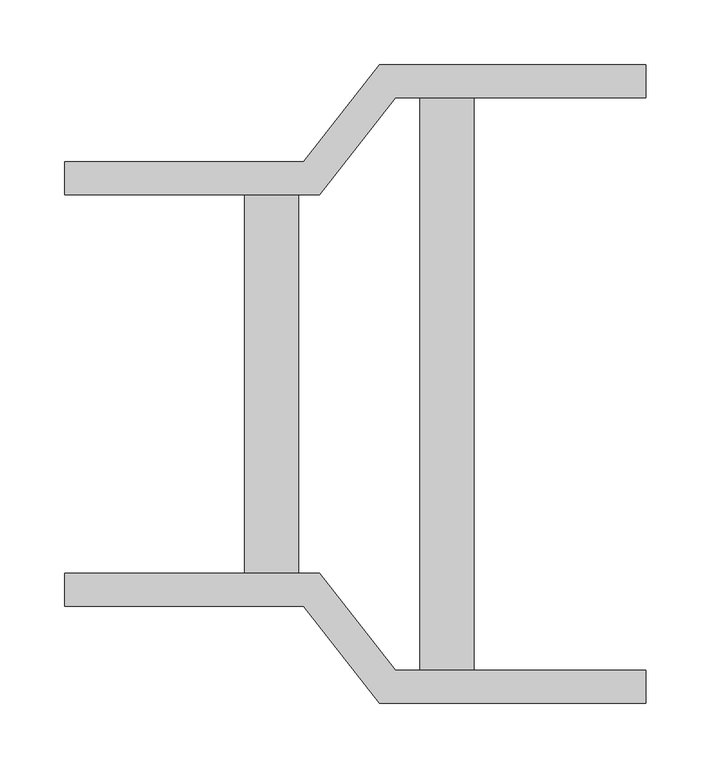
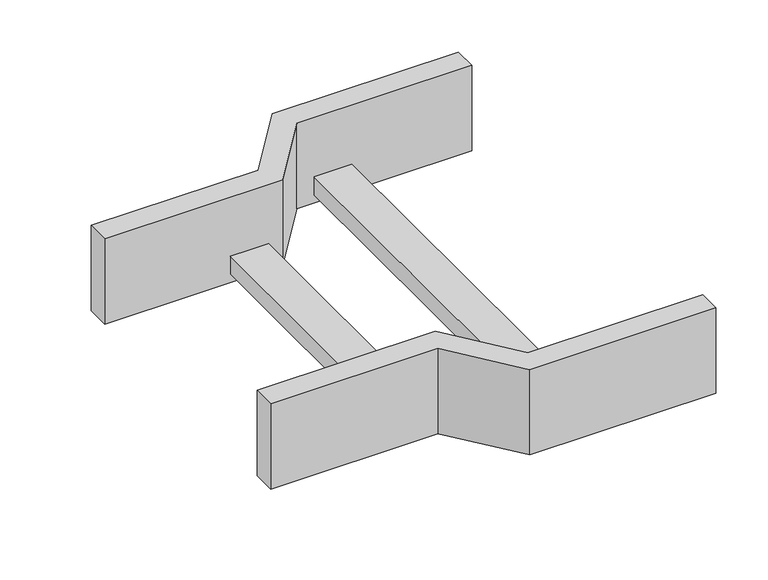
"""IFC4 building model written with IfcOpenShell, lengths in millimetres: cable carrier fitting geometry, Legrand_CableLadder_Swifts_Topaz_Reducer-13 : Straight - Hot Dip Galvanised (after manufacture)."""

from ifc_helpers import new_model, si_unit, frame, origin, place, context, project, spatial, polyline, outline, extrude, source, transform, mapped, element, save


def cable_carrier_fitting_abfec594(model_context):
    return source(origin(), model_context, "Body", "SweptSolid", [
        extrude(outline(polyline([(-225.0, 146.5), (-225.0, 172.0), (-40.030989, 172.0), (18.7964757, 247.0), (225.0, 247.0), (225.0, 221.5), (31.2035243, 221.5), (-27.6239404, 146.5), (-225.0, 146.5)])), frame((0.0, 0.0, -50.0), z_axis=(0.0, 0.0, 1.0), x_axis=(1.0, 0.0, 0.0)), (0.0, 0.0, 1.0), 100.0),
        extrude(outline(polyline([(-225.0, -172.0), (-225.0, -146.5), (-27.6239404, -146.5), (31.2035243, -221.5), (225.0, -221.5), (225.0, -247.0), (18.7964757, -247.0), (-40.030989, -172.0), (-225.0, -172.0)])), frame((0.0, 0.0, -50.0), z_axis=(0.0, 0.0, 1.0), x_axis=(1.0, 0.0, 0.0)), (0.0, 0.0, 1.0), 100.0),
        extrude(outline(polyline([(92.0, 221.5), (92.0, -221.5), (50.0, -221.5), (50.0, 221.5), (92.0, 221.5)])), frame((0.0, 0.0, -40.0), z_axis=(0.0, 0.0, 1.0), x_axis=(1.0, 0.0, 0.0)), (0.0, 0.0, 1.0), 21.0),
        extrude(outline(polyline([(-85.8274647, -146.5), (-85.8274647, 146.5), (-43.8274647, 146.5), (-43.8274647, -146.5), (-85.8274647, -146.5)])), frame((0.0, 0.0, -40.0), z_axis=(0.0, 0.0, 1.0), x_axis=(1.0, 0.0, 0.0)), (0.0, 0.0, 1.0), 21.0),
    ])


if __name__ == "__main__":
    model = new_model("IFC4")
    model_context = context("Model", 3, world=origin())
    ifc_project = project(units=[si_unit("LENGTHUNIT", "METRE", prefix="MILLI")], contexts=[model_context])
    site = spatial("IfcSite", under=ifc_project)
    building = spatial("IfcBuilding", under=site)
    placement = place(None, origin())
    cable_carrier_fitting_shape = cable_carrier_fitting_abfec594(model_context)
    element("IfcCableCarrierFitting", 1, ObjectType="Legrand_CableLadder_Swifts_Topaz_Reducer-13 : Straight - Hot Dip Galvanised (after manufacture)", at=placement, inside=building, context=model_context, shape_type="MappedRepresentation", body=[
        mapped(cable_carrier_fitting_shape, transform((0.0, 0.0, 0.0), x_axis=(1.0, 0.0, 0.0), y_axis=(0.0, 1.0, 0.0), z_axis=(0.0, 0.0, 1.0))),
    ])
    save(model, "model.ifc")
